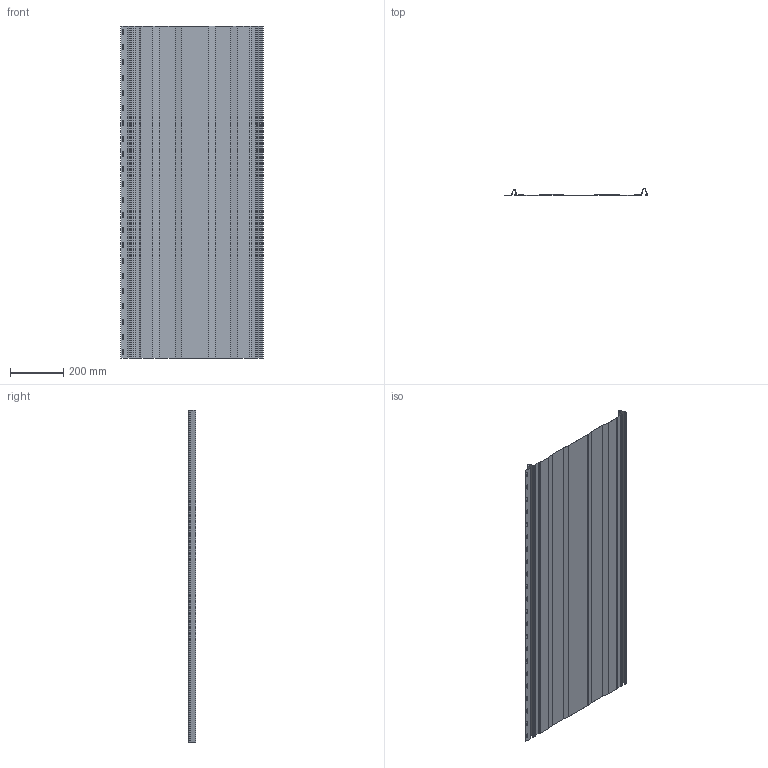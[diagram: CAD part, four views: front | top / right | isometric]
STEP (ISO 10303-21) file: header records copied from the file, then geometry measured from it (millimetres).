
FILE_DESCRIPTION(/* description */ (''),/* implementation_level */ '2;1');
FILE_NAME(/* name */ 'C:\Users\Utilisateur\Mac Metal\Site de communication - Documents\Ingénierie\1. Dessins techniques produits Mac\CAD _ REVIT Profiles drawing - MAC\MS 2\MS2.stp',/* time_stamp */ '2023-01-30T10:32:17-05:00',/* author */ ('Utilisateur'),/* organization */ (''),/* preprocessor_version */ 'ST-DEVELOPER v18.1',/* originating_system */ 'Autodesk Inventor 2022',/* authorisation */ '');
FILE_SCHEMA (('AUTOMOTIVE_DESIGN { 1 0 10303 214 3 1 1 }'));
Length unit declared in the file: inch
Products named in the file (1): MS2
Bounding box: 533.4 x 26.99 x 1244.6 mm (x, y, z)
Volume: 395522.4 mm3; surface area: 1559556.5 mm2
Topology: 1 solids, 1 shells, 198 faces, 588 edges, 392 vertices
Faces by surface type: plane 106, cylinder 92
Entity records: 6807 total; most frequent: CARTESIAN_POINT 1179, ORIENTED_EDGE 1176, DIRECTION 1170, EDGE_CURVE 588, LINE 404, VECTOR 404, VERTEX_POINT 392, AXIS2_PLACEMENT_3D 383
